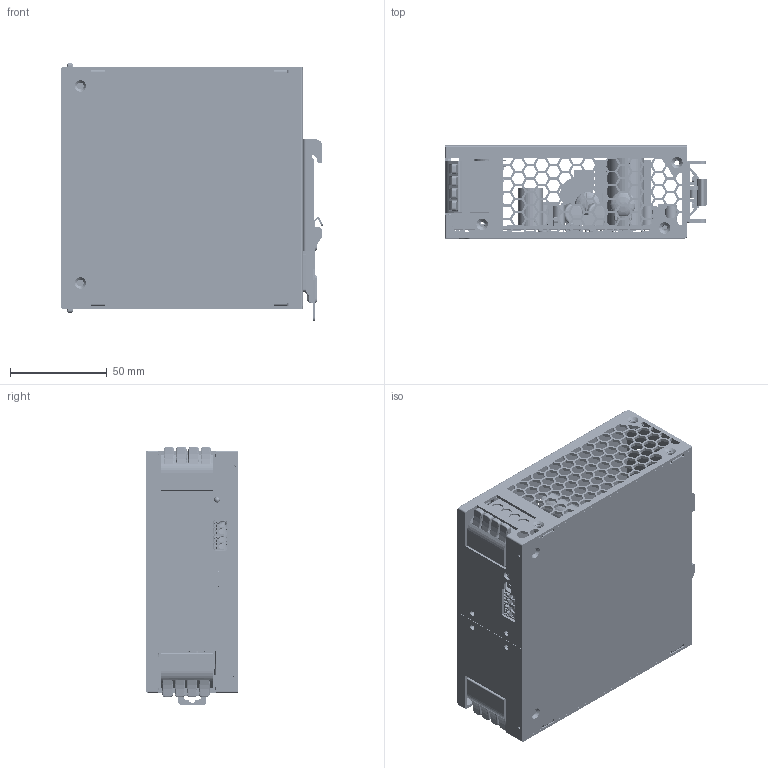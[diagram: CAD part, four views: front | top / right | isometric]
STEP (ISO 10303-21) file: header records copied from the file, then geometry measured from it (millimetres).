
FILE_DESCRIPTION(('Creo Elements/Direct Modeling STEP Export'),'2;1');
FILE_NAME('XTR-240LA.stp','2025-02-12T19:15:13',(''),(''),'Creo Elements/Direct Modeling STEP processor for AP214 (Solid Model)','Creo Elements/Direct Modeling 19.0G 27-Nov-2017 (C) Parametric Technology GmbH','');
FILE_SCHEMA(('AUTOMOTIVE_DESIGN { 1 0 10303 214 1 1 1 1 }'));
Length unit declared in the file: millimetre
Products named in the file (608): BOARD.PRT; MPX332H-6358043701_20241005.PRT; TB1.ASM; TB2.ASM; 1EE2-5X20-HZ.PRT; SPHERE-38988.PRT; 986379240.ASM; CYLINDER-39042.PRT; 986379088.ASM; CYLINDER-39234.PRT; 986378936.ASM; CYLINDER-39426.PRT; 986378784.ASM; CYLINDER-39618.PRT; 986378632.ASM; CYLINDER-39810.PRT; 986378480.ASM; CYLINDER-40002.PRT; 986378328.ASM; SPHERE-40194.PRT; 986378176.ASM; FS1.ASM; FS2.ASM; FS3.ASM; CYLINDER-40507.PRT; 987920376.ASM; CYLINDER-40699.PRT; 987920224.ASM; CYLINDER-40891.PRT; 987920072.ASM; CYLINDER-41083.PRT; 987919920.ASM; CYLINDER-41275.PRT; 986379848.ASM; CYLINDER-41467.PRT; 986379696.ASM; CYLINDER-41659.PRT; 986379544.ASM.11; SPHERE-41851.PRT; 986379392.ASM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
Assembly tree (931 placements, depth 8):
  BLA
    XTR-240A-R1X.step.1
      PCB.ASM
        RJ1.ASM
          1000108304.ASM
            1000108304_4.PRT
            1000108304_3.PRT
            1000108304_2.PRT
            1000108304_1.PRT
        T3.ASM
          1DL5-EE-13-10P-VT.ASM
            1DL5-EE-13-10P-VT_20.PRT
            1DL5-EE-13-10P-VT_19.PRT
            1DL5-EE-13-10P-VT_18.PRT
            1DL5-EE-13-10P-VT_17.PRT
            1DL5-EE-13-10P-VT_16.PRT
            1DL5-EE-13-10P-VT_15.PRT
            1DL5-EE-13-10P-VT_14.PRT
            1DL5-EE-13-10P-VT_13.PRT
            1DL5-EE-13-10P-VT_12.PRT
            1DL5-EE-13-10P-VT_11.PRT
            1DL5-EE-13-10P-VT_10.PRT
            1DL5-EE-13-10P-VT_9.PRT
            1DL5-EE-13-10P-VT_8.PRT
            1DL5-EE-13-10P-VT_7.PRT
            1DL5-EE-13-10P-VT_6.PRT
            1DL5-EE-13-10P-VT_5.PRT
            1DL5-EE-13-10P-VT_4.PRT
            1DL5-EE-13-10P-VT_3.PRT
            1DL5-EE-13-10P-VT_2.PRT
            1DL5-EE-13-10P-VT_1.PRT
        R120.ASM
          1000105264.ASM
            1000105264_4.PRT
            1000105264_3.PRT
            1000105264_2.PRT
            1000105264_1.PRT
        D42.ASM
          2CDX-SMA.PRT
        D41.ASM
          2CDX-SMA.PRT
        D40.ASM
          2CDX-SMA.PRT
        D39.ASM
          2CDX-SMA.PRT
        R186.ASM
          1000105416.ASM
            1000105416_4.PRT
            1000105416_3.PRT
            1000105416_2.PRT
            1000105416_1.PRT
        C54.ASM
          1000109064.PRT
        C43.ASM
          949985888.PRT
        TSW1.ASM
          1039483776.ASM.9  x2
            EXTRUDED-498620.PRT
          1039483616.ASM
            EXTRUDED-498248.PRT
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Bounding box: 136.2 x 48 x 133.94 mm (x, y, z)
Volume: 232513.6 mm3; surface area: 223847.8 mm2
Topology: 787 solids, 789 shells, 20737 faces, 54222 edges, 35474 vertices
Faces by surface type: plane 12647, extrusion 4242, cylinder 2729, sphere 431, torus 318, bspline 243, cone 102, revolution 25
Entity records: 344960 total; most frequent: CARTESIAN_POINT 108951, ORIENTED_EDGE 43436, DIRECTION 38683, EDGE_CURVE 21746, VECTOR 16647, LINE 16056, VERTEX_POINT 14324, AXIS2_PLACEMENT_3D 11013
